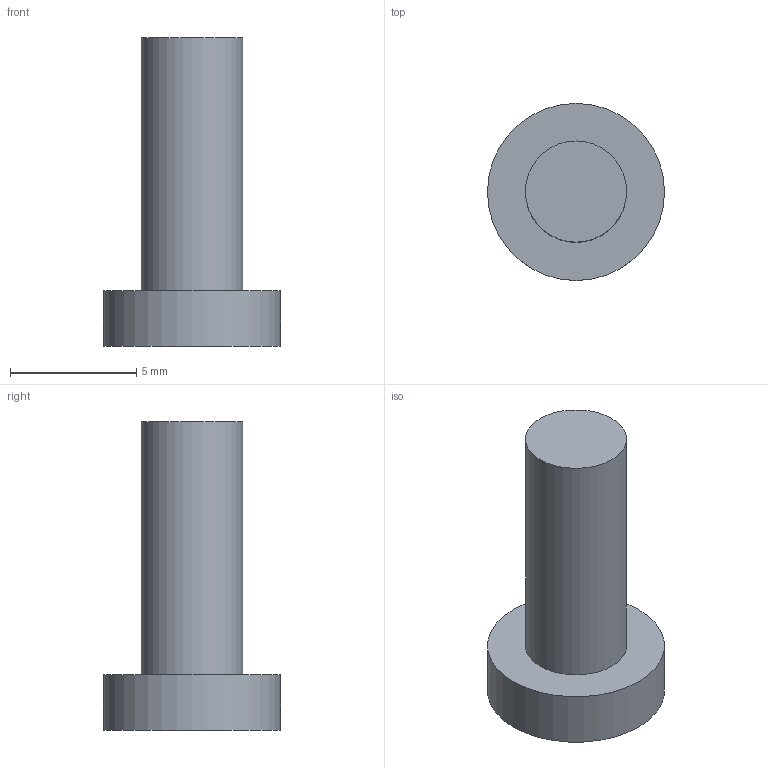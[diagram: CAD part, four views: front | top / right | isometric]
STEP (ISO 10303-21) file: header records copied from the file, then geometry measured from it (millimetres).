
FILE_DESCRIPTION(('FreeCAD Model'),'2;1');
FILE_NAME('Open CASCADE Shape Model','2026-10-30T14:44:59',('FreeCAD'),( 'FreeCAD'),'Open CASCADE STEP processor 7.8','FreeCAD','Unknown');
FILE_SCHEMA(('AUTOMOTIVE_DESIGN { 1 0 10303 214 1 1 1 1 }'));
Length unit declared in the file: millimetre
Products named in the file (1): Open CASCADE STEP translator 7.8 4
Bounding box: 7 x 7 x 12.2 mm (x, y, z)
Volume: 204.6 mm3; surface area: 261.2 mm2
Topology: 1 solids, 1 shells, 12 faces, 24 edges, 16 vertices
Faces by surface type: plane 10, cylinder 2
Full cylindrical faces by diameter (mm): 4 x1, 7 x1
Entity records: 322 total; most frequent: DIRECTION 54, CARTESIAN_POINT 53, ORIENTED_EDGE 48, EDGE_CURVE 24, LINE 20, VECTOR 20, AXIS2_PLACEMENT_3D 17, VERTEX_POINT 16
